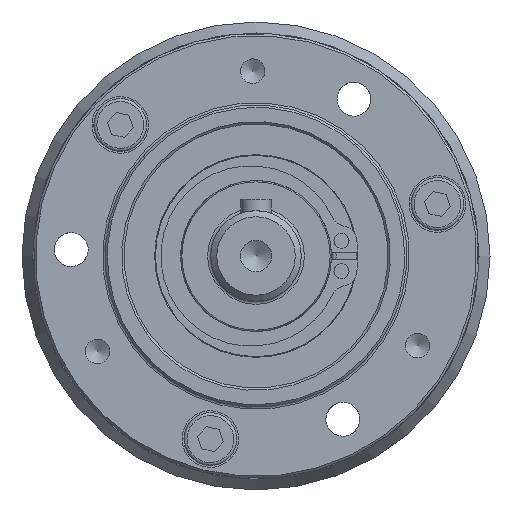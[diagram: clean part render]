
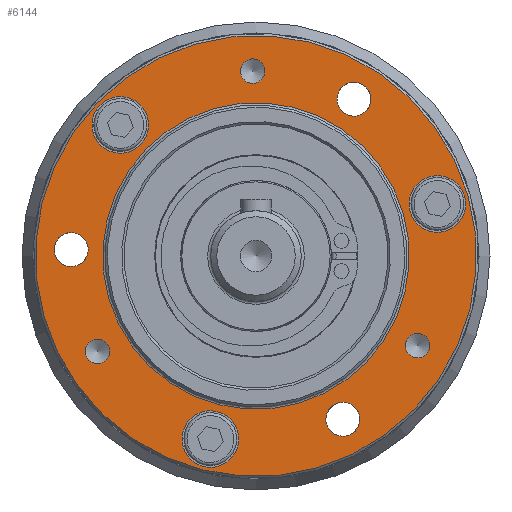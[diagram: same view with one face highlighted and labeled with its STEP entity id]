
A CAD part, left-side view. The second image highlights one B-rep face of the part: STEP entity #6144.
In plain terms, the highlighted planar face has unit normal (-1, 0, 0).
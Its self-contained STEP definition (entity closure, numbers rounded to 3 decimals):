
#969=PLANE('',#6701);
#1159=FACE_BOUND('',#1939,.T.);
#1160=FACE_BOUND('',#1940,.T.);
#1161=FACE_BOUND('',#1941,.T.);
#1162=FACE_BOUND('',#1942,.T.);
#1163=FACE_BOUND('',#1943,.T.);
#1164=FACE_BOUND('',#1944,.T.);
#1165=FACE_BOUND('',#1945,.T.);
#1166=FACE_BOUND('',#1946,.T.);
#1167=FACE_BOUND('',#1947,.T.);
#1168=FACE_BOUND('',#1948,.T.);
#1467=FACE_OUTER_BOUND('',#1938,.T.);
#1938=EDGE_LOOP('',(#4824));
#1939=EDGE_LOOP('',(#4825));
#1940=EDGE_LOOP('',(#4826));
#1941=EDGE_LOOP('',(#4827));
#1942=EDGE_LOOP('',(#4828));
#1943=EDGE_LOOP('',(#4829));
#1944=EDGE_LOOP('',(#4830));
#1945=EDGE_LOOP('',(#4831));
#1946=EDGE_LOOP('',(#4832));
#1947=EDGE_LOOP('',(#4833));
#1948=EDGE_LOOP('',(#4834));
#2292=CIRCLE('',#6483,2.25);
#2293=CIRCLE('',#6485,2.25);
#2294=CIRCLE('',#6487,2.25);
#2423=CIRCLE('',#6700,20.3);
#2424=CIRCLE('',#6702,29.2);
#2425=CIRCLE('',#6703,1.621);
#2426=CIRCLE('',#6704,1.621);
#2427=CIRCLE('',#6705,1.621);
#2428=CIRCLE('',#6706,3.75);
#2429=CIRCLE('',#6707,3.75);
#2430=CIRCLE('',#6708,3.75);
#2789=VERTEX_POINT('',#9768);
#2790=VERTEX_POINT('',#9771);
#2791=VERTEX_POINT('',#9774);
#2918=VERTEX_POINT('',#10200);
#2919=VERTEX_POINT('',#10203);
#2920=VERTEX_POINT('',#10205);
#2921=VERTEX_POINT('',#10207);
#2922=VERTEX_POINT('',#10209);
#2923=VERTEX_POINT('',#10211);
#2924=VERTEX_POINT('',#10213);
#2925=VERTEX_POINT('',#10215);
#3422=EDGE_CURVE('',#2789,#2789,#2292,.T.);
#3423=EDGE_CURVE('',#2790,#2790,#2293,.T.);
#3424=EDGE_CURVE('',#2791,#2791,#2294,.T.);
#3603=EDGE_CURVE('',#2918,#2918,#2423,.T.);
#3604=EDGE_CURVE('',#2919,#2919,#2424,.T.);
#3605=EDGE_CURVE('',#2920,#2920,#2425,.T.);
#3606=EDGE_CURVE('',#2921,#2921,#2426,.T.);
#3607=EDGE_CURVE('',#2922,#2922,#2427,.T.);
#3608=EDGE_CURVE('',#2923,#2923,#2428,.T.);
#3609=EDGE_CURVE('',#2924,#2924,#2429,.T.);
#3610=EDGE_CURVE('',#2925,#2925,#2430,.T.);
#4824=ORIENTED_EDGE('',*,*,#3604,.F.);
#4825=ORIENTED_EDGE('',*,*,#3423,.T.);
#4826=ORIENTED_EDGE('',*,*,#3424,.T.);
#4827=ORIENTED_EDGE('',*,*,#3422,.T.);
#4828=ORIENTED_EDGE('',*,*,#3605,.T.);
#4829=ORIENTED_EDGE('',*,*,#3606,.T.);
#4830=ORIENTED_EDGE('',*,*,#3607,.T.);
#4831=ORIENTED_EDGE('',*,*,#3608,.T.);
#4832=ORIENTED_EDGE('',*,*,#3609,.T.);
#4833=ORIENTED_EDGE('',*,*,#3610,.T.);
#4834=ORIENTED_EDGE('',*,*,#3603,.F.);
#6144=ADVANCED_FACE('',(#1467,#1159,#1160,#1161,#1162,#1163,#1164,#1165,
#1166,#1167,#1168),#969,.T.);
#6483=AXIS2_PLACEMENT_3D('',#9769,#7490,#7491);
#6485=AXIS2_PLACEMENT_3D('',#9772,#7494,#7495);
#6487=AXIS2_PLACEMENT_3D('',#9775,#7498,#7499);
#6700=AXIS2_PLACEMENT_3D('',#10201,#7970,#7971);
#6701=AXIS2_PLACEMENT_3D('',#10202,#7972,#7973);
#6702=AXIS2_PLACEMENT_3D('',#10204,#7974,#7975);
#6703=AXIS2_PLACEMENT_3D('',#10206,#7976,#7977);
#6704=AXIS2_PLACEMENT_3D('',#10208,#7978,#7979);
#6705=AXIS2_PLACEMENT_3D('',#10210,#7980,#7981);
#6706=AXIS2_PLACEMENT_3D('',#10212,#7982,#7983);
#6707=AXIS2_PLACEMENT_3D('',#10214,#7984,#7985);
#6708=AXIS2_PLACEMENT_3D('',#10216,#7986,#7987);
#7490=DIRECTION('center_axis',(1.,0.,0.));
#7491=DIRECTION('ref_axis',(0.,0.276,0.961));
#7494=DIRECTION('center_axis',(1.,0.,0.));
#7495=DIRECTION('ref_axis',(0.,0.276,0.961));
#7498=DIRECTION('center_axis',(1.,0.,0.));
#7499=DIRECTION('ref_axis',(0.,0.276,0.961));
#7970=DIRECTION('center_axis',(-1.,0.,0.));
#7971=DIRECTION('ref_axis',(0.,-0.961,0.276));
#7972=DIRECTION('center_axis',(-1.,0.,0.));
#7973=DIRECTION('ref_axis',(0.,0.276,0.961));
#7974=DIRECTION('center_axis',(1.,0.,0.));
#7975=DIRECTION('ref_axis',(0.,-0.961,0.276));
#7976=DIRECTION('center_axis',(1.,0.,0.));
#7977=DIRECTION('ref_axis',(0.,0.276,0.961));
#7978=DIRECTION('center_axis',(1.,0.,0.));
#7979=DIRECTION('ref_axis',(0.,0.276,0.961));
#7980=DIRECTION('center_axis',(1.,0.,0.));
#7981=DIRECTION('ref_axis',(0.,0.276,0.961));
#7982=DIRECTION('center_axis',(1.,0.,0.));
#7983=DIRECTION('ref_axis',(0.,0.276,0.961));
#7984=DIRECTION('center_axis',(1.,0.,0.));
#7985=DIRECTION('ref_axis',(0.,0.276,0.961));
#7986=DIRECTION('center_axis',(1.,0.,0.));
#7987=DIRECTION('ref_axis',(0.,0.276,0.961));
#9768=CARTESIAN_POINT('',(3.,23.865,-1.308));
#9769=CARTESIAN_POINT('Origin',(3.,24.485,0.855));
#9771=CARTESIAN_POINT('',(3.,-12.122,-23.795));
#9772=CARTESIAN_POINT('Origin',(3.,-11.502,-21.632));
#9774=CARTESIAN_POINT('',(3.,-13.603,18.614));
#9775=CARTESIAN_POINT('Origin',(3.,-12.983,20.777));
#10200=CARTESIAN_POINT('',(3.,19.514,-5.595));
#10201=CARTESIAN_POINT('Origin',(3.,0.,0.));
#10202=CARTESIAN_POINT('Origin',(3.,23.791,-6.822));
#10203=CARTESIAN_POINT('',(3.,28.069,-8.049));
#10204=CARTESIAN_POINT('Origin',(3.,0.,0.));
#10205=CARTESIAN_POINT('',(3.,-0.019,22.938));
#10206=CARTESIAN_POINT('Origin',(3.,0.428,24.496));
#10207=CARTESIAN_POINT('',(3.,20.554,-14.177));
#10208=CARTESIAN_POINT('Origin',(3.,21.001,-12.618));
#10209=CARTESIAN_POINT('',(3.,-21.875,-13.436));
#10210=CARTESIAN_POINT('Origin',(3.,-21.428,-11.878));
#10211=CARTESIAN_POINT('',(3.,16.95,13.762));
#10212=CARTESIAN_POINT('Origin',(3.,17.983,17.366));
#10213=CARTESIAN_POINT('',(3.,5.014,-27.862));
#10214=CARTESIAN_POINT('Origin',(3.,6.048,-24.257));
#10215=CARTESIAN_POINT('',(3.,-25.065,3.286));
#10216=CARTESIAN_POINT('Origin',(3.,-24.032,6.891));
